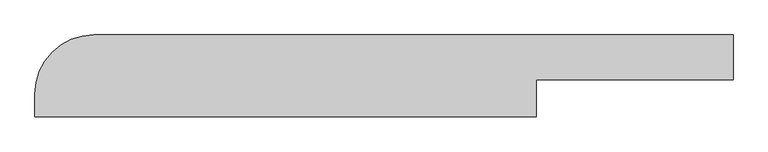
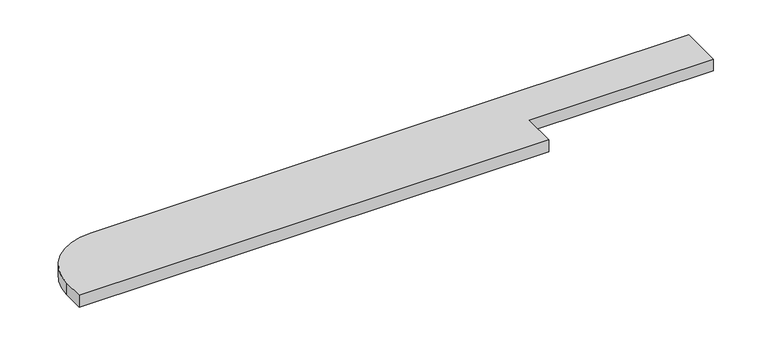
"""IFC4 building model written with IfcOpenShell, lengths in millimetres: furniture geometry, キッチンカウンター : キッチンカウンター."""

from ifc_helpers import new_model, si_unit, point, frame, frame_2d, origin, place, context, project, spatial, polyline, circle_curve, trimmed, segment, composite_curve, outline, extrude, source, transform, mapped, element, save


def furniture_3a0496f9(model_context):
    return source(origin(), model_context, "Body", "SweptSolid", [
        extrude(outline(composite_curve([segment(polyline([(-2129.5, -112.5), (-2129.5, -42.5)]), True, "CONTINUOUS"), segment(trimmed(circle_curve(frame_2d((-1949.5, -42.5)), 180.0), [point((-2129.5, -42.5))], [point((-1949.5, 137.5))], False, "CARTESIAN"), True, "CONTINUOUS"), segment(polyline([(-1949.5, 137.5), (0.0, 137.5), (0.0, 0.0), (-600.0, 0.0), (-600.0, -112.5), (-2129.5, -112.5)]), True, "CONTINUOUS")], self_intersect=False)), frame((0.0, 0.0, 1060.0), z_axis=(0.0, 0.0, 1.0), x_axis=(1.0, 0.0, 0.0)), (0.0, 0.0, 1.0), 40.0),
    ])


if __name__ == "__main__":
    model = new_model("IFC4")
    model_context = context("Model", 3, world=origin())
    ifc_project = project(units=[si_unit("LENGTHUNIT", "METRE", prefix="MILLI")], contexts=[model_context])
    site = spatial("IfcSite", under=ifc_project)
    building = spatial("IfcBuilding", under=site)
    placement = place(None, origin())
    furniture_shape = furniture_3a0496f9(model_context)
    element("IfcFurniture", 1, ObjectType="キッチンカウンター : キッチンカウンター", at=placement, inside=building, context=model_context, shape_type="MappedRepresentation", body=[
        mapped(furniture_shape, transform((0.0, 0.0, 0.0), x_axis=(1.0, 0.0, 0.0), y_axis=(0.0, 1.0, 0.0), z_axis=(0.0, 0.0, 1.0))),
    ])
    save(model, "model.ifc")
